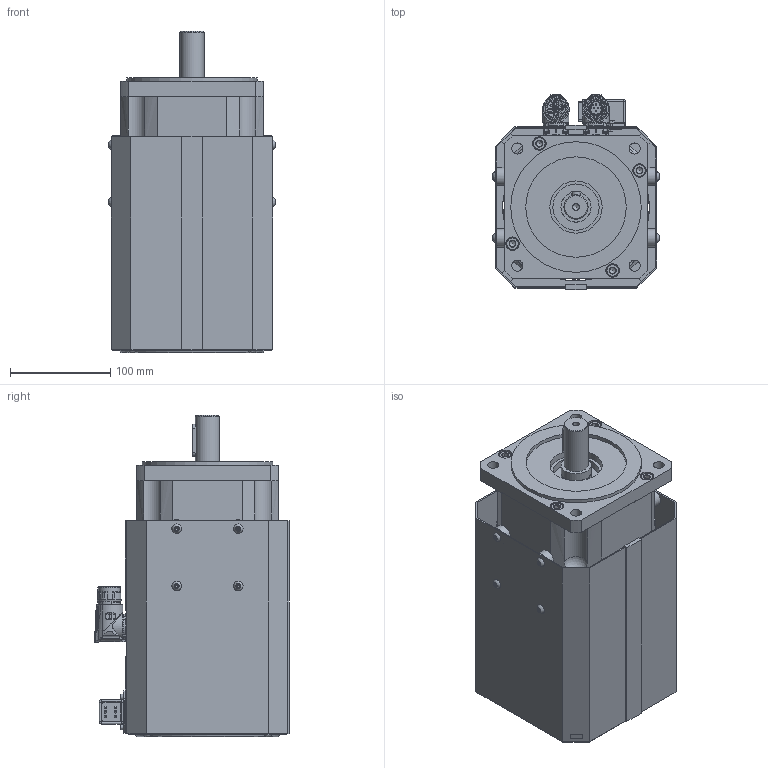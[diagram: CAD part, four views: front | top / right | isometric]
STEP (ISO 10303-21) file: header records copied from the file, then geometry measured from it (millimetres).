
FILE_DESCRIPTION(/* description */ (''),/* implementation_level */ '2;1');
FILE_NAME(/* name */ 'C:\Users\Public\Documents\Autodesk\Inventor LT 2014\Workspace\Motori Sito WEB\TG_5\DSF5_5\STEP_DSF5_5x\DSF5_51_x097.stp',/* time_stamp */ '2021-04-07T14:53:01+02:00',/* author */ ('marcor'),/* organization */ (''),/* preprocessor_version */ 'ST-DEVELOPER v15.2',/* originating_system */ 'Autodesk Inventor LT ',/* authorisation */ '');
FILE_SCHEMA (('AUTOMOTIVE_DESIGN { 1 0 10303 214 3 1 1 }'));
Products named in the file (1): DSF5_51_x097
Bounding box: 165.9 x 194.2 x 320.2 mm (x, y, z)
Volume: 3657782.3 mm3; surface area: 620924.6 mm2
Topology: 26 solids, 45 shells, 2105 faces, 5268 edges, 3455 vertices
Faces by surface type: plane 798, cylinder 588, cone 400, bspline 167, torus 104, sphere 48
Full cylindrical faces by diameter (mm): 1.2 x12, 2.013 x8, 2.2 x4, 2.224 x8, 2.233 x6, 2.4 x6, 2.5 x8, 2.88 x8, 3 x4, 3.26 x8, 3.5 x10, 4 x4, 4.134 x8, 4.5 x10, 4.8 x8, 4.917 x4, 5 x8, 5.5 x13, 5.9 x2, 6 x4, 6.5 x12, 6.647 x9, 7.5 x4, 8 x8, 8.5 x8, 10 x4, 11 x8, 12 x1, 13 x8, 13.5 x8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
Entity records: 71120 total; most frequent: CARTESIAN_POINT 23428, ORIENTED_EDGE 9328, DIRECTION 9047, EDGE_CURVE 4620, AXIS2_PLACEMENT_3D 3656, VERTEX_POINT 3263, EDGE_LOOP 2853, ADVANCED_FACE 2105
